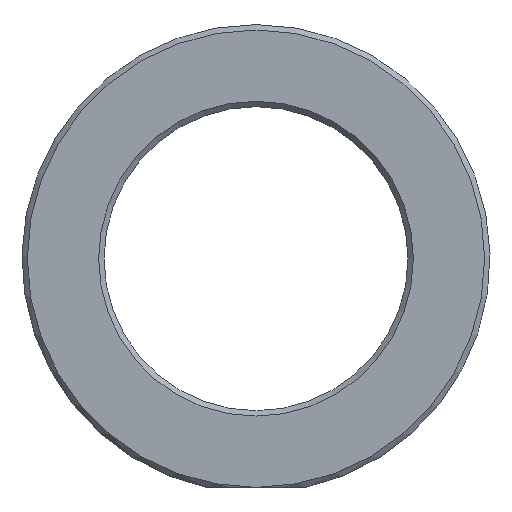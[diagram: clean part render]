
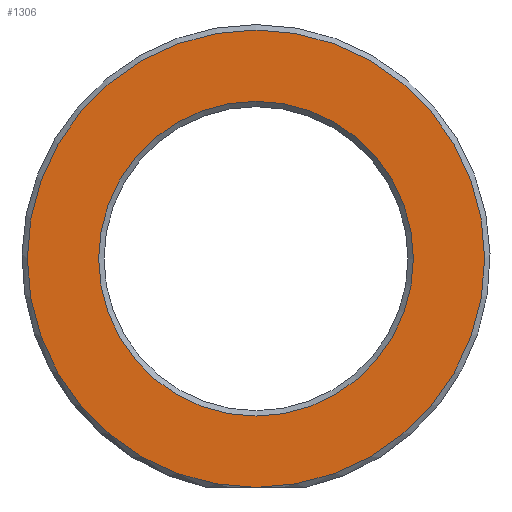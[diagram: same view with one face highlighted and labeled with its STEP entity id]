
A CAD part, left-side view. The second image highlights one B-rep face of the part: STEP entity #1306.
In plain terms, the highlighted planar face has unit normal (-1, 0, 0).
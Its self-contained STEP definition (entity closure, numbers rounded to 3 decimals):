
#1121=CARTESIAN_POINT('',(-21.0,0.0,-42.5));
#1122=VERTEX_POINT('',#1121);
#1160=CARTESIAN_POINT('',(-21.0,0.0,0.0));
#1161=DIRECTION('',(1.0,0.0,0.0));
#1162=DIRECTION('',(0.0,-1.0,0.0));
#1163=AXIS2_PLACEMENT_3D('',#1160,#1161,#1162);
#1164=CIRCLE('',#1163,42.5);
#1165=EDGE_CURVE('',#1122,#1122,#1164,.T.);
#1263=CARTESIAN_POINT('',(-21.0,0.,-29.25));
#1264=VERTEX_POINT('',#1263);
#1265=CARTESIAN_POINT('',(-21.0,0.0,0.0));
#1266=DIRECTION('',(-1.0,0.0,0.0));
#1267=DIRECTION('',(0.0,0.0,1.0));
#1268=AXIS2_PLACEMENT_3D('',#1265,#1266,#1267);
#1269=CIRCLE('',#1268,29.25);
#1270=EDGE_CURVE('',#1264,#1264,#1269,.T.);
#1295=CARTESIAN_POINT('',(-21.0,0.0,0.0));
#1296=DIRECTION('',(-1.0,0.0,0.0));
#1297=DIRECTION('',(0.0,0.0,1.0));
#1298=AXIS2_PLACEMENT_3D('',#1295,#1296,#1297);
#1299=PLANE('',#1298);
#1300=ORIENTED_EDGE('',*,*,#1165,.F.);
#1301=EDGE_LOOP('',(#1300));
#1302=FACE_OUTER_BOUND('',#1301,.T.);
#1303=ORIENTED_EDGE('',*,*,#1270,.F.);
#1304=EDGE_LOOP('',(#1303));
#1305=FACE_BOUND('',#1304,.T.);
#1306=ADVANCED_FACE('',(#1302,#1305),#1299,.T.);
